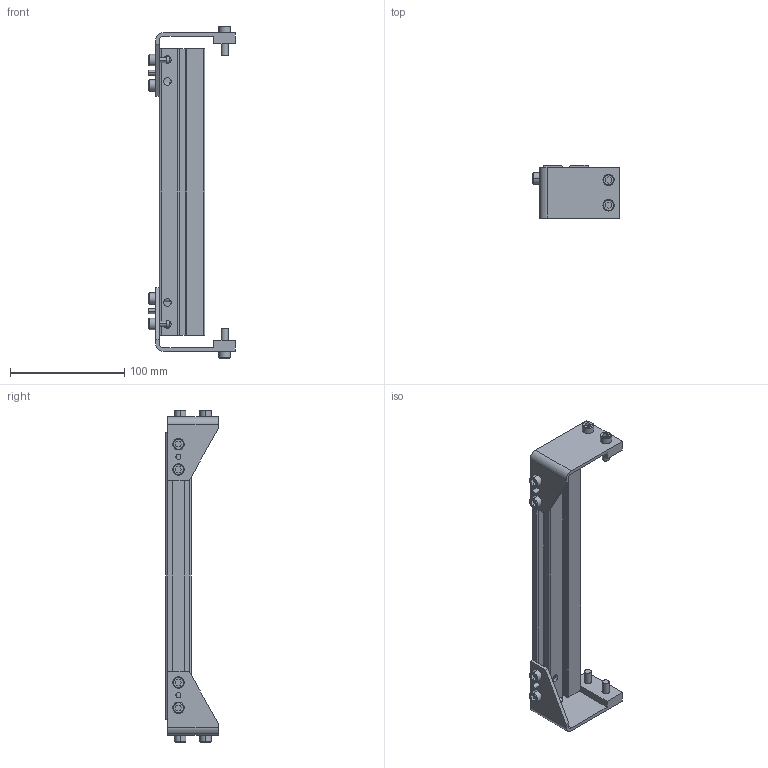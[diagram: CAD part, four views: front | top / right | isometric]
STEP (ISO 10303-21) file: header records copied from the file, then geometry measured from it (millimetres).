
FILE_DESCRIPTION((''),'2;1');
FILE_NAME('3076WWM_2_ASM','2023-03-15T',('jenni.wallner'),(''),'PRO/ENGINEER BY PARAMETRIC TECHNOLOGY CORPORATION, 2012420','PRO/ENGINEER BY PARAMETRIC TECHNOLOGY CORPORATION, 2012420','');
FILE_SCHEMA(('CONFIG_CONTROL_DESIGN'));
Length unit declared in the file: inch
Products named in the file (4): 677721_1; BRACKET_L; BRACKET_R; 3076WWM_2_ASM
Assembly tree (3 placements, depth 2):
  3076WWM_2_ASM
    677721_1
    BRACKET_L
    BRACKET_R
Bounding box: 76.2 x 46.13 x 290.82 mm (x, y, z)
Volume: 146847.4 mm3; surface area: 89824.3 mm2
Topology: 3 solids, 3 shells, 296 faces, 730 edges, 476 vertices
Faces by surface type: plane 188, cylinder 76, cone 32
Entity records: 8834 total; most frequent: DIRECTION 1520, CARTESIAN_POINT 1509, ORIENTED_EDGE 1460, EDGE_CURVE 730, VECTOR 546, LINE 546, AXIS2_PLACEMENT_3D 487, VERTEX_POINT 476
